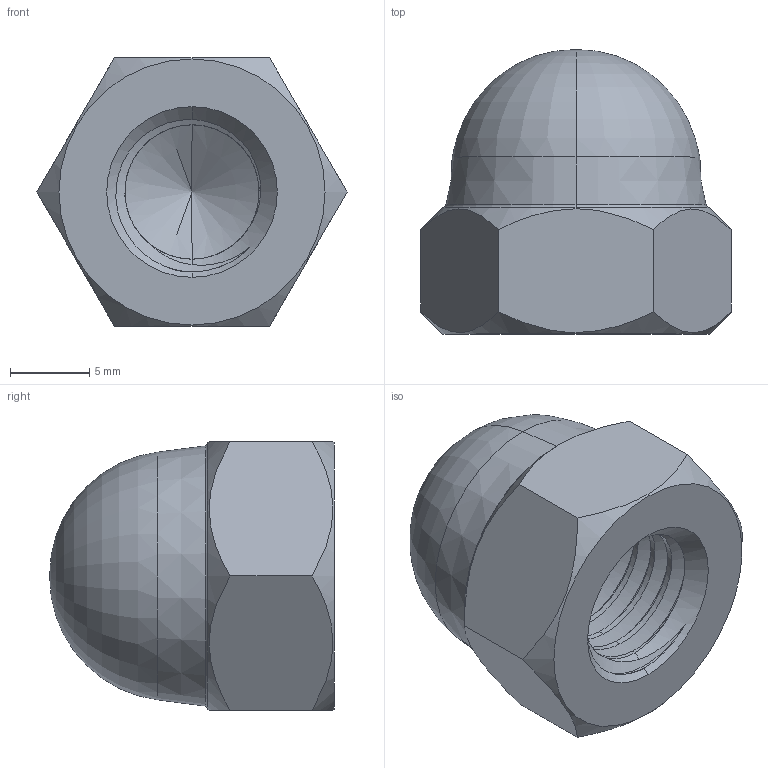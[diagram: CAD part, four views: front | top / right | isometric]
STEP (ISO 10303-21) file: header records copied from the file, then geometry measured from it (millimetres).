
FILE_DESCRIPTION (( 'STEP AP203' ), '1' );
FILE_NAME ('TAN_BAU_M10.STEP', '2026-08-24T08:28:10', ( '' ), ( '' ), 'SwSTEP 2.0', 'SolidWorks 2020', '' );
FILE_SCHEMA (( 'CONFIG_CONTROL_DESIGN' ));
Length unit declared in the file: millimetre
Products named in the file (1): TAN_BAU_M10
Bounding box: 19.63 x 18 x 17 mm (x, y, z)
Volume: 2488.5 mm3; surface area: 1803.4 mm2
Topology: 1 solids, 1 shells, 42 faces, 111 edges, 70 vertices
Faces by surface type: cylinder 15, cone 11, plane 9, torus 4, bspline 3
Entity records: 2752 total; most frequent: CARTESIAN_POINT 1786, ORIENTED_EDGE 218, DIRECTION 153, EDGE_CURVE 109, VERTEX_POINT 70, AXIS2_PLACEMENT_3D 60, EDGE_LOOP 43, ADVANCED_FACE 42
